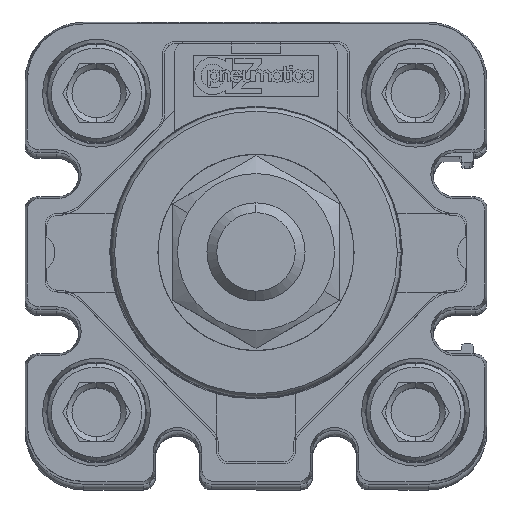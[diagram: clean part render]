
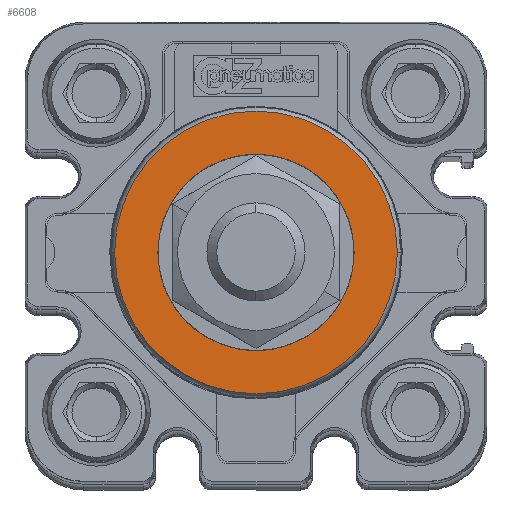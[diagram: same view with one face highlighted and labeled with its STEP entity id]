
A CAD part, top view. The second image highlights one B-rep face of the part: STEP entity #6608.
In plain terms, the highlighted planar face has unit normal (0, 0, 1) as drawn and (0, 0, -1) by its records, which use the part's own axes.
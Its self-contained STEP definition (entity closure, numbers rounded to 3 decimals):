
#492 = ORIENTED_EDGE ( 'NONE', *, *, #44927, .F. ) ;
#838 = VERTEX_POINT ( 'NONE', #3736 ) ;
#3306 = DIRECTION ( 'NONE',  ( -1., 0., 0. ) ) ;
#3736 = CARTESIAN_POINT ( 'NONE',  ( -14.408, 0., -42.7 ) ) ;
#6608 = ADVANCED_FACE ( 'NONE', ( #6836, #38374 ), #28590, .T. ) ;
#6836 = FACE_BOUND ( 'NONE', #26329, .T. ) ;
#8138 = CARTESIAN_POINT ( 'NONE',  ( 0., 0., -42.7 ) ) ;
#8967 = CARTESIAN_POINT ( 'NONE',  ( 0., 0., -42.7 ) ) ;
#13622 = AXIS2_PLACEMENT_3D ( 'NONE', #8138, #18223, #52346 ) ;
#14729 = ORIENTED_EDGE ( 'NONE', *, *, #61389, .F. ) ;
#17029 = VERTEX_POINT ( 'NONE', #62711 ) ;
#18031 = AXIS2_PLACEMENT_3D ( 'NONE', #26837, #66782, #27309 ) ;
#18223 = DIRECTION ( 'NONE',  ( 0., 0., 1. ) ) ;
#18332 = CARTESIAN_POINT ( 'NONE',  ( 10., 0., -42.7 ) ) ;
#22880 = DIRECTION ( 'NONE',  ( 0., 0., 1. ) ) ;
#26329 = EDGE_LOOP ( 'NONE', ( #69285, #32141 ) ) ;
#26837 = CARTESIAN_POINT ( 'NONE',  ( 0., 0., -42.7 ) ) ;
#27309 = DIRECTION ( 'NONE',  ( -1., 0., 0. ) ) ;
#28590 = PLANE ( 'NONE',  #62170 ) ;
#32141 = ORIENTED_EDGE ( 'NONE', *, *, #53583, .F. ) ;
#33660 = CARTESIAN_POINT ( 'NONE',  ( 0., 0., -42.7 ) ) ;
#36879 = CIRCLE ( 'NONE', #51840, 14.408 ) ;
#38374 = FACE_OUTER_BOUND ( 'NONE', #64839, .T. ) ;
#38949 = CIRCLE ( 'NONE', #13622, 14.408 ) ;
#39097 = DIRECTION ( 'NONE',  ( -1., 0., 0. ) ) ;
#40025 = CIRCLE ( 'NONE', #18031, 10. ) ;
#44927 = EDGE_CURVE ( 'NONE', #54271, #838, #36879, .T. ) ;
#46278 = EDGE_CURVE ( 'NONE', #17029, #63695, #53608, .T. ) ;
#51619 = CARTESIAN_POINT ( 'NONE',  ( 14.408, 0., -42.7 ) ) ;
#51840 = AXIS2_PLACEMENT_3D ( 'NONE', #33660, #22880, #39097 ) ;
#52182 = CARTESIAN_POINT ( 'NONE',  ( 0., 0., -42.7 ) ) ;
#52346 = DIRECTION ( 'NONE',  ( -1., 0., 0. ) ) ;
#53583 = EDGE_CURVE ( 'NONE', #63695, #17029, #40025, .T. ) ;
#53608 = CIRCLE ( 'NONE', #72820, 10. ) ;
#54271 = VERTEX_POINT ( 'NONE', #51619 ) ;
#57878 = DIRECTION ( 'NONE',  ( 0., 0., -1. ) ) ;
#61389 = EDGE_CURVE ( 'NONE', #838, #54271, #38949, .T. ) ;
#62170 = AXIS2_PLACEMENT_3D ( 'NONE', #52182, #57878, #3306 ) ;
#62711 = CARTESIAN_POINT ( 'NONE',  ( -10., 0., -42.7 ) ) ;
#63695 = VERTEX_POINT ( 'NONE', #18332 ) ;
#64839 = EDGE_LOOP ( 'NONE', ( #14729, #492 ) ) ;
#66782 = DIRECTION ( 'NONE',  ( 0., 0., -1. ) ) ;
#69285 = ORIENTED_EDGE ( 'NONE', *, *, #46278, .F. ) ;
#70247 = DIRECTION ( 'NONE',  ( 0., 0., -1. ) ) ;
#70487 = DIRECTION ( 'NONE',  ( -1., 0., 0. ) ) ;
#72820 = AXIS2_PLACEMENT_3D ( 'NONE', #8967, #70247, #70487 ) ;
